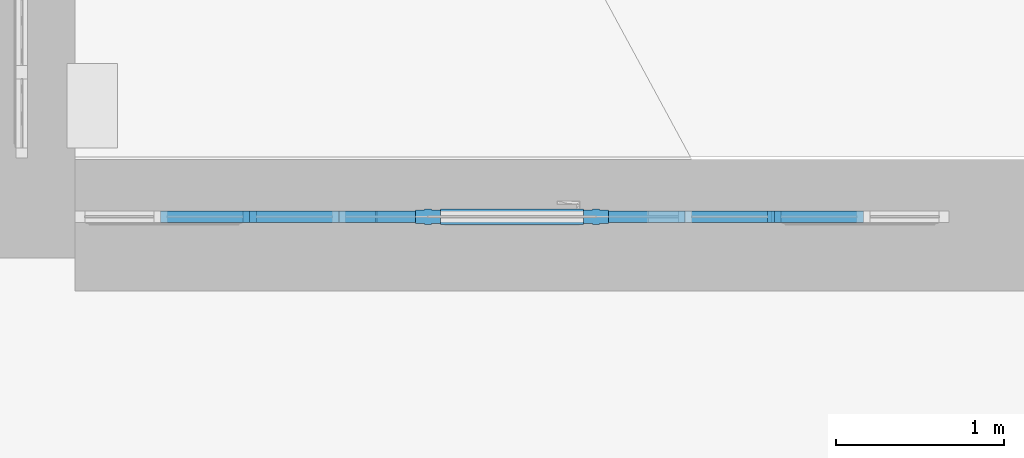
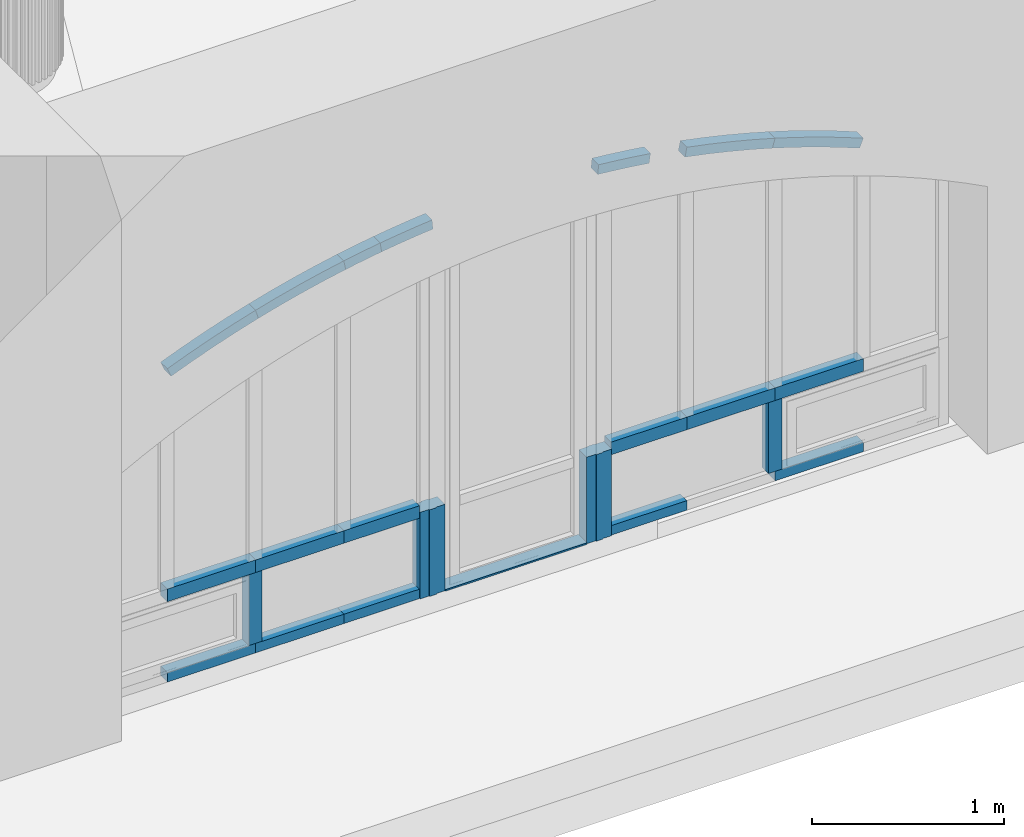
# One storey, part 18 of 88: 23 members, 1 element without a shape of its own.
"""IFC2X3 building model written with IfcOpenShell, lengths in millimetres."""

from ifc_helpers import new_model, entity, si_unit, converted_unit, derived_unit, direction, frame, frame_2d, origin, place, context, subcontext, project, spatial, polyline, circle_curve, parameter, trimmed, segment, composite_curve, rectangle, outline, extrude, source, transform, mapped, material, type_object, type_shapes, element, aggregate, save


model = new_model("IFC2X3")

# Units and contexts
model_context = context("Model", 3, precision=0.01, world=origin(), true_north=direction((6.123031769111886e-17, 1.0)))
body_context = subcontext(model_context, "Body", "Model", "MODEL_VIEW")
ifc_project = project(units=[si_unit("LENGTHUNIT", "METRE", prefix="MILLI"), si_unit("AREAUNIT", "SQUARE_METRE"), si_unit("VOLUMEUNIT", "CUBIC_METRE"), converted_unit("PLANEANGLEUNIT", "DEGREE", entity("IfcPlaneAngleMeasure", 0.017453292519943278), si_unit("PLANEANGLEUNIT", "RADIAN"), dimensions=[0, 0, 0, 0, 0, 0, 0]), si_unit("MASSUNIT", "GRAM", prefix="KILO"), derived_unit("MASSDENSITYUNIT", [(si_unit("MASSUNIT", "GRAM", prefix="KILO"), 1), (si_unit("LENGTHUNIT", "METRE"), -3)]), derived_unit("IONCONCENTRATIONUNIT", [(si_unit("MASSUNIT", "GRAM", prefix="KILO"), 1), (si_unit("LENGTHUNIT", "METRE"), -3)]), derived_unit("MOMENTOFINERTIAUNIT", [(si_unit("LENGTHUNIT", "METRE"), 4)]), si_unit("TIMEUNIT", "SECOND"), si_unit("FREQUENCYUNIT", "HERTZ"), si_unit("THERMODYNAMICTEMPERATUREUNIT", "DEGREE_CELSIUS"), derived_unit("THERMALTRANSMITTANCEUNIT", [(si_unit("MASSUNIT", "GRAM", prefix="KILO"), 1), (si_unit("THERMODYNAMICTEMPERATUREUNIT", "KELVIN"), -1), (si_unit("TIMEUNIT", "SECOND"), -3)]), derived_unit("THERMALCONDUCTANCEUNIT", [(si_unit("MASSUNIT", "GRAM", prefix="KILO"), 1), (si_unit("THERMODYNAMICTEMPERATUREUNIT", "KELVIN"), -1), (si_unit("TIMEUNIT", "SECOND"), -3), (si_unit("LENGTHUNIT", "METRE"), 1)]), derived_unit("VOLUMETRICFLOWRATEUNIT", [(si_unit("LENGTHUNIT", "METRE", prefix="DECI"), 3), (si_unit("TIMEUNIT", "SECOND"), -1)]), derived_unit("MASSFLOWRATEUNIT", [(si_unit("MASSUNIT", "GRAM", prefix="KILO"), 1), (si_unit("TIMEUNIT", "SECOND"), -1)]), derived_unit("ROTATIONALFREQUENCYUNIT", [(si_unit("TIMEUNIT", "SECOND"), -1)]), si_unit("ELECTRICCURRENTUNIT", "AMPERE"), si_unit("ELECTRICVOLTAGEUNIT", "VOLT"), si_unit("POWERUNIT", "WATT"), si_unit("FORCEUNIT", "NEWTON", prefix="KILO"), si_unit("ILLUMINANCEUNIT", "LUX"), si_unit("LUMINOUSFLUXUNIT", "LUMEN"), si_unit("LUMINOUSINTENSITYUNIT", "CANDELA"), si_unit("ENERGYUNIT", "JOULE"), derived_unit("USERDEFINED", [(si_unit("MASSUNIT", "GRAM", prefix="KILO"), -1), (si_unit("LENGTHUNIT", "METRE"), -2), (si_unit("TIMEUNIT", "SECOND"), 3), (si_unit("LUMINOUSFLUXUNIT", "LUMEN"), 1)]), derived_unit("USERDEFINED", [(si_unit("MASSUNIT", "GRAM", prefix="KILO"), 1), (si_unit("TIMEUNIT", "SECOND"), -3), (si_unit("LENGTHUNIT", "METRE"), 3), (si_unit("ELECTRICCURRENTUNIT", "AMPERE"), -2)]), derived_unit("SOUNDPOWERUNIT", [(si_unit("MASSUNIT", "GRAM", prefix="KILO"), 1), (si_unit("TIMEUNIT", "SECOND"), -3), (si_unit("LENGTHUNIT", "METRE"), 2)]), derived_unit("SOUNDPRESSUREUNIT", [(si_unit("MASSUNIT", "GRAM", prefix="KILO"), 1), (si_unit("LENGTHUNIT", "METRE"), -1), (si_unit("TIMEUNIT", "SECOND"), -2)]), derived_unit("LINEARVELOCITYUNIT", [(si_unit("LENGTHUNIT", "METRE"), 1), (si_unit("TIMEUNIT", "SECOND"), -1)]), si_unit("PRESSUREUNIT", "PASCAL"), derived_unit("USERDEFINED", [(si_unit("MASSUNIT", "GRAM", prefix="KILO"), 1), (si_unit("LENGTHUNIT", "METRE"), -2), (si_unit("TIMEUNIT", "SECOND"), -2)]), derived_unit("LINEARFORCEUNIT", [(si_unit("MASSUNIT", "GRAM", prefix="KILO"), 1), (si_unit("TIMEUNIT", "SECOND"), -2)]), derived_unit("PLANARFORCEUNIT", [(si_unit("MASSUNIT", "GRAM", prefix="KILO"), 1), (si_unit("LENGTHUNIT", "METRE"), -1), (si_unit("TIMEUNIT", "SECOND"), -2)]), derived_unit("SPECIFICHEATCAPACITYUNIT", [(si_unit("THERMODYNAMICTEMPERATUREUNIT", "KELVIN"), -1), (si_unit("LENGTHUNIT", "METRE"), 2), (si_unit("TIMEUNIT", "SECOND"), -2)]), derived_unit("HEATFLUXDENSITYUNIT", [(si_unit("MASSUNIT", "GRAM", prefix="KILO"), 1), (si_unit("TIMEUNIT", "SECOND"), -3)]), derived_unit("HEATINGVALUEUNIT", [(si_unit("LENGTHUNIT", "METRE"), 2), (si_unit("TIMEUNIT", "SECOND"), -2)]), derived_unit("VAPORPERMEABILITYUNIT", [(si_unit("LENGTHUNIT", "METRE"), -1), (si_unit("TIMEUNIT", "SECOND"), 1)]), derived_unit("DYNAMICVISCOSITYUNIT", [(si_unit("MASSUNIT", "GRAM", prefix="KILO"), 1), (si_unit("TIMEUNIT", "SECOND"), -1), (si_unit("LENGTHUNIT", "METRE"), -1)]), derived_unit("THERMALEXPANSIONCOEFFICIENTUNIT", [(si_unit("THERMODYNAMICTEMPERATUREUNIT", "KELVIN"), -1)]), derived_unit("MODULUSOFELASTICITYUNIT", [(si_unit("MASSUNIT", "GRAM", prefix="KILO"), 1), (si_unit("LENGTHUNIT", "METRE"), -1), (si_unit("TIMEUNIT", "SECOND"), -2)]), derived_unit("ISOTHERMALMOISTURECAPACITYUNIT", [(si_unit("MASSUNIT", "GRAM", prefix="KILO"), -1), (si_unit("LENGTHUNIT", "METRE"), 3)]), derived_unit("MOISTUREDIFFUSIVITYUNIT", [(si_unit("TIMEUNIT", "SECOND"), -1), (si_unit("LENGTHUNIT", "METRE"), 2)]), derived_unit("MASSPERLENGTHUNIT", [(si_unit("MASSUNIT", "GRAM", prefix="KILO"), 1), (si_unit("LENGTHUNIT", "METRE"), -1)]), derived_unit("THERMALRESISTANCEUNIT", [(si_unit("MASSUNIT", "GRAM", prefix="KILO"), -1), (si_unit("TIMEUNIT", "SECOND"), 3), (si_unit("THERMODYNAMICTEMPERATUREUNIT", "KELVIN"), 1)]), derived_unit("ACCELERATIONUNIT", [(si_unit("LENGTHUNIT", "METRE"), 1), (si_unit("TIMEUNIT", "SECOND"), -2)]), derived_unit("ANGULARVELOCITYUNIT", [(si_unit("TIMEUNIT", "SECOND"), -1), (si_unit("PLANEANGLEUNIT", "RADIAN"), 1)]), derived_unit("LINEARSTIFFNESSUNIT", [(si_unit("MASSUNIT", "GRAM", prefix="KILO"), 1), (si_unit("TIMEUNIT", "SECOND"), -2)]), derived_unit("WARPINGCONSTANTUNIT", [(si_unit("LENGTHUNIT", "METRE"), 6)]), derived_unit("LINEARMOMENTUNIT", [(si_unit("MASSUNIT", "GRAM", prefix="KILO"), 1), (si_unit("LENGTHUNIT", "METRE"), 1), (si_unit("TIMEUNIT", "SECOND"), -2)]), derived_unit("TORQUEUNIT", [(si_unit("MASSUNIT", "GRAM", prefix="KILO"), 1), (si_unit("LENGTHUNIT", "METRE"), 2), (si_unit("TIMEUNIT", "SECOND"), -2)])], contexts=[model_context])

# Site, building, storey
site_placement = place(None, origin())
site = spatial("IfcSite", under=ifc_project, at=site_placement, Name="Default", CompositionType="ELEMENT")
building_placement = place(site_placement, origin())
building = spatial("IfcBuilding", under=site, at=building_placement, Name="Eesti Rahvusraamatukogu hoone renoveerimise projekteerimistööd", CompositionType="ELEMENT")
storey_placement = place(building_placement, origin())
storey = spatial("IfcBuildingStorey", under=building, at=storey_placement, Name="1. korrus", CompositionType="ELEMENT", Elevation=0.0)

# Curtain wall, members
curtain_wall_type = type_object("IfcCurtainWallType", Name="Curtain Wall:Ak-05", PredefinedType="NOTDEFINED")
curtain_wall_placement = place(storey_placement, origin())
curtain_wall = element("IfcCurtainWall", 1, at=curtain_wall_placement, inside=storey, type_object=curtain_wall_type, Name="Curtain Wall:Ak-05", ObjectType="Curtain Wall:Ak-05")
ifc_material_1 = material(Name="LUMION_dark steel window frames")
member_type_1 = type_object("IfcMemberType", Name="Rectangular Mullion:NEW 60x70mm", PredefinedType="MULLION", material=ifc_material_1)
shared_shape_1 = source(origin(), body_context, "Body", "SweptSolid", [
    extrude(outline(composite_curve([segment(polyline([(-44.19959331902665, -278.9278071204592), (15.800406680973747, -278.92780712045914)]), True, "CONTINUOUS"), segment(trimmed(circle_curve(frame_2d((5479.080973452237, -278.92780712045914), x_axis=(-0.9948301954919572, 0.10155236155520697)), 5463.280566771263), [parameter(3.5622212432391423e-13)], [parameter(5.828569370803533)], True, "PARAMETER"), False, "CONTINUOUS"), segment(polyline([(44.044499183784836, 275.88123627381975), (-15.645312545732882, 281.97437796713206)]), True, "CONTINUOUS"), segment(trimmed(circle_curve(frame_2d((5479.080973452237, -278.92780712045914), x_axis=(-0.9948301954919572, 0.10155236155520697)), 5523.280566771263), [parameter(3.5622212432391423e-13)], [parameter(5.828569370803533)], True, "PARAMETER"), True, "CONTINUOUS")], self_intersect=False)), frame((-44.19959331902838, -35.0, -278.92780712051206), z_axis=(0.0, 1.0, 0.0), x_axis=(-0.9948301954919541, 0.0, 0.10155236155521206)), (0.0, 0.0, 1.0), 70.0),
])
type_shapes(member_type_1, [shared_shape_1])
member_1_placement = place(curtain_wall_placement, frame((-42080.0, 440.0, 1939.304710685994), z_axis=(-0.9256428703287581, 0.0, -0.3783983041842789), x_axis=(-0.3783983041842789, 0.0, 0.9256428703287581)))
member_1 = element("IfcMember", 2, at=member_1_placement, type_object=member_type_1, material=ifc_material_1, Name="Rectangular Mullion:NEW 60x70mm", ObjectType="Rectangular Mullion:NEW 60x70mm", context=body_context, shape_type="MappedRepresentation", body=[
    mapped(shared_shape_1, transform((0.0, 0.0, 0.0), scale=1.0)),
])
member_type_2 = type_object("IfcMemberType", Name="Rectangular Mullion:NEW 60x70mm", PredefinedType="MULLION", material=ifc_material_1)
shared_shape_2 = source(origin(), body_context, "Body", "SweptSolid", [
    extrude(outline(composite_curve([segment(polyline([(-43.382786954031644, -270.80676601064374), (16.617213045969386, -270.8067660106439)]), True, "CONTINUOUS"), segment(trimmed(circle_curve(frame_2d((5479.897779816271, -270.80676601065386), x_axis=(-0.9951275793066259, 0.09859564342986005)), 5463.280566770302), [parameter(3.5622212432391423e-13)], [parameter(5.658307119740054)], True, "PARAMETER"), False, "CONTINUOUS"), segment(polyline([(43.23661433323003, 267.84889670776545), (-16.47104042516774, 273.76463531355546)]), True, "CONTINUOUS"), segment(trimmed(circle_curve(frame_2d((5479.897779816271, -270.80676601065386), x_axis=(-0.9951275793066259, 0.09859564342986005)), 5523.280566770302), [parameter(3.5622212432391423e-13)], [parameter(5.658307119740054)], True, "PARAMETER"), True, "CONTINUOUS")], self_intersect=False)), frame((-43.382786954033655, -35.0, -270.806766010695), z_axis=(0.0, 1.0, 0.0), x_axis=(-0.9951275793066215, 0.0, 0.09859564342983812)), (0.0, 0.0, 1.0), 69.99999999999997),
])
type_shapes(member_type_2, [shared_shape_2])
member_2_placement = place(curtain_wall_placement, frame((-41550.0, 440.0, 2125.1180799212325), z_axis=(-0.9592847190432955, 0.0, -0.28244083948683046), x_axis=(-0.28244083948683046, 0.0, 0.9592847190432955)))
member_2 = element("IfcMember", 3, at=member_2_placement, type_object=member_type_2, material=ifc_material_1, Name="Rectangular Mullion:NEW 60x70mm", ObjectType="Rectangular Mullion:NEW 60x70mm", context=body_context, shape_type="MappedRepresentation", body=[
    mapped(shared_shape_2, transform((0.0, 0.0, 0.0), scale=1.0)),
])
member_type_3 = type_object("IfcMemberType", Name="Rectangular Mullion:NEW 60x70mm", PredefinedType="MULLION", material=ifc_material_1)
shared_shape_3 = source(origin(), body_context, "Body", "SweptSolid", [
    extrude(outline(composite_curve([segment(polyline([(-32.20246871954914, -109.9723953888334), (27.797531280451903, -109.97239538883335)]), True, "CONTINUOUS"), segment(trimmed(circle_curve(frame_2d((5491.0780980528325, -109.97239538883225), x_axis=(-0.9991981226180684, 0.04003887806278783)), 5463.2805667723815), [parameter(3.5622212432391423e-13)], [parameter(2.2946721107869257)], True, "PARAMETER"), False, "CONTINUOUS"), segment(polyline([(32.17841239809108, 108.77122904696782), (-27.773474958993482, 111.17356173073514)]), True, "CONTINUOUS"), segment(trimmed(circle_curve(frame_2d((5491.0780980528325, -109.97239538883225), x_axis=(-0.9991981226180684, 0.04003887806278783)), 5523.2805667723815), [parameter(3.5622212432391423e-13)], [parameter(2.2946721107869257)], True, "PARAMETER"), True, "CONTINUOUS")], self_intersect=False)), frame((-32.20246871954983, -35.0, -109.97239538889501), z_axis=(0.0, 1.0, 0.0), x_axis=(-0.9991981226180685, 0.0, 0.04003887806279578)), (0.0, 0.0, 1.0), 70.0),
])
type_shapes(member_type_3, [shared_shape_3])
member_3_placement = place(curtain_wall_placement, frame((-41020.0, 440.0, 2253.1112564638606), z_axis=(-0.9824581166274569, 0.0, -0.18648337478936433), x_axis=(-0.18648337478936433, 0.0, 0.9824581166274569)))
member_3 = element("IfcMember", 4, at=member_3_placement, type_object=member_type_3, material=ifc_material_1, Name="Rectangular Mullion:NEW 60x70mm", ObjectType="Rectangular Mullion:NEW 60x70mm", context=body_context, shape_type="MappedRepresentation", body=[
    mapped(shared_shape_3, transform((0.0, 0.0, 0.0), scale=1.0)),
])
member_type_4 = type_object("IfcMemberType", Name="Rectangular Mullion:NEW 60x70mm", PredefinedType="MULLION", material=ifc_material_1)
shared_shape_4 = source(origin(), body_context, "Body", "SweptSolid", [
    extrude(outline(composite_curve([segment(polyline([(-44.19959331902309, -278.9278071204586), (15.800406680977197, -278.92780712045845)]), True, "CONTINUOUS"), segment(trimmed(circle_curve(frame_2d((5479.080973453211, -278.92780712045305), x_axis=(-0.9948301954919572, 0.10155236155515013)), 5463.280566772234), [parameter(3.5622212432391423e-13)], [parameter(5.828569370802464)], True, "PARAMETER"), False, "CONTINUOUS"), segment(polyline([(44.04449918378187, 275.88123627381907), (-15.645312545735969, 281.9743779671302)]), True, "CONTINUOUS"), segment(trimmed(circle_curve(frame_2d((5479.080973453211, -278.92780712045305), x_axis=(-0.9948301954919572, 0.10155236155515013)), 5523.280566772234), [parameter(3.5622212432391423e-13)], [parameter(5.828569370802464)], True, "PARAMETER"), True, "CONTINUOUS")], self_intersect=False)), frame((-44.199593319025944, -35.0, -278.92780712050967), z_axis=(0.0, 1.0, 0.0), x_axis=(-0.9948301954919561, 0.0, 0.1015523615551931)), (0.0, 0.0, 1.0), 69.99999999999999),
])
type_shapes(member_type_4, [shared_shape_4])
member_4_placement = place(curtain_wall_placement, frame((-38430.0, 440.0, 2125.1180799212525), z_axis=(-0.9592847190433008, 0.0, 0.2824408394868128), x_axis=(0.2824408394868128, 0.0, 0.9592847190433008)))
member_4 = element("IfcMember", 5, at=member_4_placement, type_object=member_type_4, material=ifc_material_1, Name="Rectangular Mullion:NEW 60x70mm", ObjectType="Rectangular Mullion:NEW 60x70mm", context=body_context, shape_type="MappedRepresentation", body=[
    mapped(shared_shape_4, transform((0.0, 0.0, 0.0), scale=1.0)),
])
member_type_5 = type_object("IfcMemberType", Name="Rectangular Mullion:NEW 60x70mm", PredefinedType="MULLION", material=ifc_material_1)
shared_shape_5 = source(origin(), body_context, "Body", "SweptSolid", [
    extrude(outline(composite_curve([segment(polyline([(-43.382786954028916, -270.80676601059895), (16.61721304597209, -270.8067660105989)]), True, "CONTINUOUS"), segment(trimmed(circle_curve(frame_2d((5479.897779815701, -270.8067660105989), x_axis=(-0.9951275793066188, 0.09859564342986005)), 5463.2805667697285), [parameter(3.5622212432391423e-13)], [parameter(5.658307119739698)], True, "PARAMETER"), False, "CONTINUOUS"), segment(polyline([(43.236614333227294, 267.8488967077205), (-16.471040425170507, 273.76463531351)]), True, "CONTINUOUS"), segment(trimmed(circle_curve(frame_2d((5479.897779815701, -270.8067660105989), x_axis=(-0.9951275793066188, 0.09859564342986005)), 5523.2805667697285), [parameter(3.5622212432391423e-13)], [parameter(5.658307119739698)], True, "PARAMETER"), True, "CONTINUOUS")], self_intersect=False)), frame((-43.38278695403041, -35.0, -270.8067660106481), z_axis=(0.0, 1.0, 0.0), x_axis=(-0.9951275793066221, 0.0, 0.09859564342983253)), (0.0, 0.0, 1.0), 70.0),
])
type_shapes(member_type_5, [shared_shape_5])
member_5_placement = place(curtain_wall_placement, frame((-38960.0, 440.0, 2253.1112564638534), z_axis=(-0.9824581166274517, 0.0, 0.18648337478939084), x_axis=(0.18648337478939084, 0.0, 0.9824581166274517)))
member_5 = element("IfcMember", 6, at=member_5_placement, type_object=member_type_5, material=ifc_material_1, Name="Rectangular Mullion:NEW 60x70mm", ObjectType="Rectangular Mullion:NEW 60x70mm", context=body_context, shape_type="MappedRepresentation", body=[
    mapped(shared_shape_5, transform((0.0, 0.0, 0.0), scale=1.0)),
])
member_type_6 = type_object("IfcMemberType", Name="Rectangular Mullion:NEW 60x70mm", PredefinedType="MULLION", material=ifc_material_1)
shared_shape_6 = source(origin(), body_context, "Body", "SweptSolid", [
    extrude(outline(composite_curve([segment(polyline([(-34.44225079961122, -156.14991642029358), (25.557749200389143, -156.1499164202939)]), True, "CONTINUOUS"), segment(trimmed(circle_curve(frame_2d((5488.838315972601, -156.14991642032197), x_axis=(-0.9983826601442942, 0.05685124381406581)), 5463.280566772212), [parameter(3.5622212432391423e-13)], [parameter(3.2590935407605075)], True, "PARAMETER"), False, "CONTINUOUS"), segment(polyline([(34.39373060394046, 154.44437910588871), (-25.50922900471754, 157.85545373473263)]), True, "CONTINUOUS"), segment(trimmed(circle_curve(frame_2d((5488.838315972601, -156.14991642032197), x_axis=(-0.9983826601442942, 0.05685124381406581)), 5523.280566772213), [parameter(3.5622212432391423e-13)], [parameter(3.2590935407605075)], True, "PARAMETER"), True, "CONTINUOUS")], self_intersect=False)), frame((-34.44225079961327, -35.0, -156.14991642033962), z_axis=(0.0, 1.0, 0.0), x_axis=(-0.9983826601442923, 0.0, 0.056851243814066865)), (0.0, 0.0, 1.0), 69.99999999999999),
])
type_shapes(member_type_6, [shared_shape_6])
member_6_placement = place(curtain_wall_placement, frame((-39490.0, 440.0, 2327.3219656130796), z_axis=(-0.9958941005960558, 0.0, 0.0905259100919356), x_axis=(0.0905259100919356, 0.0, 0.9958941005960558)))
member_6 = element("IfcMember", 7, at=member_6_placement, type_object=member_type_6, material=ifc_material_1, Name="Rectangular Mullion:NEW 60x70mm", ObjectType="Rectangular Mullion:NEW 60x70mm", context=body_context, shape_type="MappedRepresentation", body=[
    mapped(shared_shape_6, transform((0.0, 0.0, 0.0), scale=1.0)),
])
member_type_7 = type_object("IfcMemberType", Name="Rectangular Mullion:NEW 150x90mm", PredefinedType="MULLION", material=ifc_material_1)
shared_shape_7 = source(origin(), body_context, "Body", "SweptSolid", [
    extrude(outline(polyline([(20.0, -40.0), (75.0, -40.0), (75.0, 40.0), (20.0, 40.0), (20.0, 45.0), (-20.0, 45.0), (-20.0, 40.0), (-75.0, 40.0), (-75.0, -40.0), (-20.0, -40.0), (-20.0, -45.0), (20.0, -45.0), (20.0, -40.0)])), frame((0.0, 0.0, -550.0), z_axis=(0.0, 0.0, 1.0), x_axis=(-1.0, 0.0, 0.0)), (0.0, 0.0, 1.0), 550.0000000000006),
])
type_shapes(member_type_7, [shared_shape_7])
member_7_placement = place(curtain_wall_placement, frame((-39490.0, 440.0, -50.0), z_axis=(0.0, 0.0, -1.0), x_axis=(-1.0, 0.0, 0.0)))
member_7 = element("IfcMember", 8, at=member_7_placement, type_object=member_type_7, material=ifc_material_1, Name="Rectangular Mullion:NEW 150x90mm", ObjectType="Rectangular Mullion:NEW 150x90mm", context=body_context, shape_type="MappedRepresentation", body=[
    mapped(shared_shape_7, transform((0.0, 0.0, 0.0), scale=1.0)),
])
member_8_placement = place(curtain_wall_placement, frame((-40490.0, 440.0, -50.0), z_axis=(0.0, 0.0, -1.0), x_axis=(-1.0, 0.0, 0.0)))
member_8 = element("IfcMember", 9, at=member_8_placement, type_object=member_type_7, material=ifc_material_1, Name="Rectangular Mullion:NEW 150x90mm", ObjectType="Rectangular Mullion:NEW 150x90mm", context=body_context, shape_type="MappedRepresentation", body=[
    mapped(shared_shape_7, transform((0.0, 0.0, 0.0), scale=1.0)),
])
member_type_8 = type_object("IfcMemberType", Name="Rectangular Mullion:NEW 80x70mm", PredefinedType="MULLION", material=ifc_material_1)
shared_shape_8 = source(origin(), body_context, "Body", "SweptSolid", [
    extrude(rectangle(XDim=80.0, YDim=70.0, at=frame_2d((0.0, -3.552713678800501e-15), x_axis=(1.0, 0.0))), frame((0.0, 0.0, -530.0), z_axis=(0.0, 0.0, 1.0), x_axis=(-1.0, 0.0, 0.0)), (0.0, 0.0, 1.0), 530.0000000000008),
])
type_shapes(member_type_8, [shared_shape_8])
member_9_placement = place(curtain_wall_placement, frame((-42080.0, 440.0, 500.0), z_axis=(-1.0, 0.0, 0.0), x_axis=(0.0, 0.0, 1.0)))
member_9 = element("IfcMember", 10, at=member_9_placement, type_object=member_type_8, material=ifc_material_1, Name="Rectangular Mullion:NEW 80x70mm", ObjectType="Rectangular Mullion:NEW 80x70mm", context=body_context, shape_type="MappedRepresentation", body=[
    mapped(shared_shape_8, transform((0.0, 0.0, 0.0), scale=1.0)),
])
member_10_placement = place(curtain_wall_placement, frame((-41550.0, 440.0, 500.0), z_axis=(-1.0, 0.0, 0.0), x_axis=(0.0, 0.0, 1.0)))
member_10 = element("IfcMember", 11, at=member_10_placement, type_object=member_type_8, material=ifc_material_1, Name="Rectangular Mullion:NEW 80x70mm", ObjectType="Rectangular Mullion:NEW 80x70mm", context=body_context, shape_type="MappedRepresentation", body=[
    mapped(shared_shape_8, transform((0.0, 0.0, 0.0), scale=1.0)),
])
member_11_placement = place(curtain_wall_placement, frame((-38430.0, 440.0, 500.0), z_axis=(-1.0, 0.0, 0.0), x_axis=(0.0, 0.0, 1.0)))
member_11 = element("IfcMember", 12, at=member_11_placement, type_object=member_type_8, material=ifc_material_1, Name="Rectangular Mullion:NEW 80x70mm", ObjectType="Rectangular Mullion:NEW 80x70mm", context=body_context, shape_type="MappedRepresentation", body=[
    mapped(shared_shape_8, transform((0.0, 0.0, 0.0), scale=1.0)),
])
member_12_placement = place(curtain_wall_placement, frame((-38960.0, 440.0, 500.0), z_axis=(-1.0, 0.0, 0.0), x_axis=(0.0, 0.0, 1.0)))
member_12 = element("IfcMember", 13, at=member_12_placement, type_object=member_type_8, material=ifc_material_1, Name="Rectangular Mullion:NEW 80x70mm", ObjectType="Rectangular Mullion:NEW 80x70mm", context=body_context, shape_type="MappedRepresentation", body=[
    mapped(shared_shape_8, transform((0.0, 0.0, 0.0), scale=1.0)),
])
member_type_9 = type_object("IfcMemberType", Name="Rectangular Mullion:NEW 80x70mm", PredefinedType="MULLION", material=ifc_material_1)
shared_shape_9 = source(origin(), body_context, "Body", "SweptSolid", [
    extrude(rectangle(XDim=80.0, YDim=70.0, at=frame_2d((0.0, -3.552713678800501e-15), x_axis=(1.0, 0.0))), frame((0.0, 0.0, -455.0), z_axis=(0.0, 0.0, 1.0), x_axis=(-1.0, 0.0, 0.0)), (0.0, 0.0, 1.0), 455.0000000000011),
])
type_shapes(member_type_9, [shared_shape_9])
member_13_placement = place(curtain_wall_placement, frame((-39415.0, 440.0, 500.0), z_axis=(-1.0, 0.0, 0.0), x_axis=(0.0, 0.0, 1.0)))
member_13 = element("IfcMember", 14, at=member_13_placement, type_object=member_type_9, material=ifc_material_1, Name="Rectangular Mullion:NEW 80x70mm", ObjectType="Rectangular Mullion:NEW 80x70mm", context=body_context, shape_type="MappedRepresentation", body=[
    mapped(shared_shape_9, transform((0.0, 0.0, 0.0), scale=1.0)),
])
member_type_10 = type_object("IfcMemberType", Name="Rectangular Mullion:NEW 80x70mm", PredefinedType="MULLION", material=ifc_material_1)
shared_shape_10 = source(origin(), body_context, "Body", "SweptSolid", [
    extrude(rectangle(XDim=80.0, YDim=70.0, at=frame_2d((0.0, -3.552713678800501e-15), x_axis=(1.0, 0.0))), frame((0.0, 0.0, -455.0), z_axis=(0.0, 0.0, 1.0), x_axis=(-1.0, 0.0, 0.0)), (0.0, 0.0, 1.0), 455.0000000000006),
])
type_shapes(member_type_10, [shared_shape_10])
member_14_placement = place(curtain_wall_placement, frame((-41020.0, 440.0, 500.0), z_axis=(-1.0, 0.0, 0.0), x_axis=(0.0, 0.0, 1.0)))
member_14 = element("IfcMember", 15, at=member_14_placement, type_object=member_type_10, material=ifc_material_1, Name="Rectangular Mullion:NEW 80x70mm", ObjectType="Rectangular Mullion:NEW 80x70mm", context=body_context, shape_type="MappedRepresentation", body=[
    mapped(shared_shape_10, transform((0.0, 0.0, 0.0), scale=1.0)),
])
member_type_11 = type_object("IfcMemberType", Name="Rectangular Mullion:NEW 80x70mm", PredefinedType="MULLION", material=ifc_material_1)
shared_shape_11 = source(origin(), body_context, "Body", "SweptSolid", [
    extrude(rectangle(XDim=80.0, YDim=70.0, at=frame_2d((0.0, -3.552713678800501e-15), x_axis=(1.0, 0.0))), frame((0.0, 0.0, -450.0), z_axis=(0.0, 0.0, 1.0), x_axis=(-1.0, 0.0, 0.0)), (0.0, 0.0, 1.0), 450.00000000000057),
])
type_shapes(member_type_11, [shared_shape_11])
member_15_placement = place(curtain_wall_placement, frame((-41550.0, 440.0, 10.0), z_axis=(0.0, 0.0, -1.0), x_axis=(-1.0, 0.0, 0.0)))
member_15 = element("IfcMember", 16, at=member_15_placement, type_object=member_type_11, material=ifc_material_1, Name="Rectangular Mullion:NEW 80x70mm", ObjectType="Rectangular Mullion:NEW 80x70mm", context=body_context, shape_type="MappedRepresentation", body=[
    mapped(shared_shape_11, transform((0.0, 0.0, 0.0), scale=1.0)),
])
member_16_placement = place(curtain_wall_placement, frame((-38430.0, 440.0, 10.0), z_axis=(0.0, 0.0, -1.0), x_axis=(-1.0, 0.0, 0.0)))
member_16 = element("IfcMember", 17, at=member_16_placement, type_object=member_type_11, material=ifc_material_1, Name="Rectangular Mullion:NEW 80x70mm", ObjectType="Rectangular Mullion:NEW 80x70mm", context=body_context, shape_type="MappedRepresentation", body=[
    mapped(shared_shape_11, transform((0.0, 0.0, 0.0), scale=1.0)),
])
member_type_12 = type_object("IfcMemberType", Name="Rectangular Mullion:NEW 60x70mm", PredefinedType="MULLION", material=ifc_material_1)
shared_shape_12 = source(origin(), body_context, "Body", "SweptSolid", [
    extrude(rectangle(XDim=60.0, YDim=70.0, at=frame_2d((0.0, 3.552713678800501e-15), x_axis=(1.0, 0.0))), frame((-30.0, 0.0, -530.0), z_axis=(0.0, 0.0, 1.0), x_axis=(-1.0, 0.0, 0.0)), (0.0, 0.0, 1.0), 530.0000000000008),
])
type_shapes(member_type_12, [shared_shape_12])
member_17_placement = place(curtain_wall_placement, frame((-41550.0, 440.0, -50.0), z_axis=(1.0, 0.0, 0.0), x_axis=(0.0, 0.0, -1.0)))
member_17 = element("IfcMember", 18, at=member_17_placement, type_object=member_type_12, material=ifc_material_1, Name="Rectangular Mullion:NEW 60x70mm", ObjectType="Rectangular Mullion:NEW 60x70mm", context=body_context, shape_type="MappedRepresentation", body=[
    mapped(shared_shape_12, transform((0.0, 0.0, 0.0), scale=1.0)),
])
member_type_13 = type_object("IfcMemberType", Name="Rectangular Mullion:NEW 60x70mm", PredefinedType="MULLION", material=ifc_material_1)
shared_shape_13 = source(origin(), body_context, "Body", "SweptSolid", [
    extrude(rectangle(XDim=60.0, YDim=70.0, at=frame_2d((0.0, 3.552713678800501e-15), x_axis=(1.0, 0.0))), frame((-30.0, 0.0, -530.0), z_axis=(0.0, 0.0, 1.0), x_axis=(-1.0, 0.0, 0.0)), (0.0, 0.0, 1.0), 530.0000000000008),
])
type_shapes(member_type_13, [shared_shape_13])
member_18_placement = place(curtain_wall_placement, frame((-41020.0, 440.0, -50.0), z_axis=(1.0, 0.0, 0.0), x_axis=(0.0, 0.0, -1.0)))
member_18 = element("IfcMember", 19, at=member_18_placement, type_object=member_type_13, material=ifc_material_1, Name="Rectangular Mullion:NEW 60x70mm", ObjectType="Rectangular Mullion:NEW 60x70mm", context=body_context, shape_type="MappedRepresentation", body=[
    mapped(shared_shape_13, transform((0.0, 0.0, 0.0), scale=1.0)),
])
member_19_placement = place(curtain_wall_placement, frame((-37900.0, 440.0, -50.0), z_axis=(1.0, 0.0, 0.0), x_axis=(0.0, 0.0, -1.0)))
member_19 = element("IfcMember", 20, at=member_19_placement, type_object=member_type_13, material=ifc_material_1, Name="Rectangular Mullion:NEW 60x70mm", ObjectType="Rectangular Mullion:NEW 60x70mm", context=body_context, shape_type="MappedRepresentation", body=[
    mapped(shared_shape_13, transform((0.0, 0.0, 0.0), scale=1.0)),
])
member_type_14 = type_object("IfcMemberType", Name="Rectangular Mullion:NEW 60x70mm", PredefinedType="MULLION", material=ifc_material_1)
shared_shape_14 = source(origin(), body_context, "Body", "SweptSolid", [
    extrude(rectangle(XDim=60.0, YDim=70.0, at=frame_2d((0.0, 3.552713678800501e-15), x_axis=(1.0, 0.0))), frame((-30.0, 0.0, -455.0), z_axis=(0.0, 0.0, 1.0), x_axis=(-1.0, 0.0, 0.0)), (0.0, 0.0, 1.0), 455.0000000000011),
])
type_shapes(member_type_14, [shared_shape_14])
member_20_placement = place(curtain_wall_placement, frame((-38960.0, 440.0, -50.0), z_axis=(1.0, 0.0, 0.0), x_axis=(0.0, 0.0, -1.0)))
member_20 = element("IfcMember", 21, at=member_20_placement, type_object=member_type_14, material=ifc_material_1, Name="Rectangular Mullion:NEW 60x70mm", ObjectType="Rectangular Mullion:NEW 60x70mm", context=body_context, shape_type="MappedRepresentation", body=[
    mapped(shared_shape_14, transform((0.0, 0.0, 0.0), scale=1.0)),
])
member_type_15 = type_object("IfcMemberType", Name="Rectangular Mullion:NEW 60x70mm", PredefinedType="MULLION", material=ifc_material_1)
shared_shape_15 = source(origin(), body_context, "Body", "SweptSolid", [
    extrude(rectangle(XDim=60.0, YDim=70.0, at=frame_2d((0.0, 3.552713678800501e-15), x_axis=(1.0, 0.0))), frame((-30.0, 0.0, -455.0), z_axis=(0.0, 0.0, 1.0), x_axis=(-1.0, 0.0, 0.0)), (0.0, 0.0, 1.0), 455.0000000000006),
])
type_shapes(member_type_15, [shared_shape_15])
member_21_placement = place(curtain_wall_placement, frame((-40565.0, 440.0, -50.0), z_axis=(1.0, 0.0, 0.0), x_axis=(0.0, 0.0, -1.0)))
member_21 = element("IfcMember", 22, at=member_21_placement, type_object=member_type_15, material=ifc_material_1, Name="Rectangular Mullion:NEW 60x70mm", ObjectType="Rectangular Mullion:NEW 60x70mm", context=body_context, shape_type="MappedRepresentation", body=[
    mapped(shared_shape_15, transform((0.0, 0.0, 0.0), scale=1.0)),
])
ifc_material_2 = material(Name="Lumion_aluminium")
member_type_16 = type_object("IfcMemberType", Name="Rectangular Mullion:NEW 10x90mm", PredefinedType="MULLION", material=ifc_material_2)
shared_shape_16 = source(origin(), body_context, "Body", "SweptSolid", [
    extrude(rectangle(XDim=10.0, YDim=90.0, at=frame_2d((0.0, 3.552713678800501e-15), x_axis=(1.0, 0.0))), frame((-5.0, 0.0, -850.0), z_axis=(0.0, 0.0, 1.0), x_axis=(-1.0, 0.0, 0.0)), (0.0, 0.0, 1.0), 849.9999999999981),
])
type_shapes(member_type_16, [shared_shape_16])
member_22_placement = place(curtain_wall_placement, frame((-39565.0, 440.0, -50.0), z_axis=(1.0, 0.0, 0.0), x_axis=(0.0, 0.0, -1.0)))
member_22 = element("IfcMember", 23, at=member_22_placement, type_object=member_type_16, material=ifc_material_2, Name="Rectangular Mullion:NEW 10x90mm", ObjectType="Rectangular Mullion:NEW 10x90mm", context=body_context, shape_type="MappedRepresentation", body=[
    mapped(shared_shape_16, transform((0.0, 0.0, 0.0), scale=1.0)),
])
member_type_17 = type_object("IfcMemberType", Name="Rectangular Mullion:NEW 60x70mm", PredefinedType="MULLION", material=ifc_material_1)
shared_shape_17 = source(origin(), body_context, "Body", "SweptSolid", [
    extrude(outline(composite_curve([segment(polyline([(-34.44225079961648, -156.14991642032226), (25.557749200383, -156.1499164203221)]), True, "CONTINUOUS"), segment(trimmed(circle_curve(frame_2d((5488.838315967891, -156.1499164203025), x_axis=(-0.9983826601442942, 0.056851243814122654)), 5463.2805667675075), [parameter(3.5622212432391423e-13)], [parameter(3.259093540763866)], True, "PARAMETER"), False, "CONTINUOUS"), segment(polyline([(34.39373060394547, 154.44437910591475), (-25.50922900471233, 157.8554537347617)]), True, "CONTINUOUS"), segment(trimmed(circle_curve(frame_2d((5488.838315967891, -156.1499164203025), x_axis=(-0.9983826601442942, 0.056851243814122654)), 5523.2805667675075), [parameter(3.5622212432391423e-13)], [parameter(3.259093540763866)], True, "PARAMETER"), True, "CONTINUOUS")], self_intersect=False)), frame((-34.442250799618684, -35.0, -156.14991642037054), z_axis=(0.0, 1.0, 0.0), x_axis=(-0.9983826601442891, 0.0, 0.056851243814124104)), (0.0, 0.0, 1.0), 69.99999999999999),
])
type_shapes(member_type_17, [shared_shape_17])
member_23_placement = place(curtain_wall_placement, frame((-40801.907425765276, 440.0, 2290.0), z_axis=(-0.9891368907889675, 0.0, -0.14699731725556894), x_axis=(-0.14699731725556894, 0.0, 0.9891368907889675)))
member_23 = element("IfcMember", 24, at=member_23_placement, type_object=member_type_17, material=ifc_material_1, Name="Rectangular Mullion:NEW 60x70mm", ObjectType="Rectangular Mullion:NEW 60x70mm", context=body_context, shape_type="MappedRepresentation", body=[
    mapped(shared_shape_17, transform((0.0, 0.0, 0.0), scale=1.0)),
])
aggregate(curtain_wall, [member_1, member_2, member_3, member_4, member_5, member_6, member_7, member_8, member_9, member_10, member_11, member_12, member_13, member_14, member_15, member_16, member_17, member_18, member_19, member_20, member_21, member_22, member_23])

save(model, "model.ifc")
